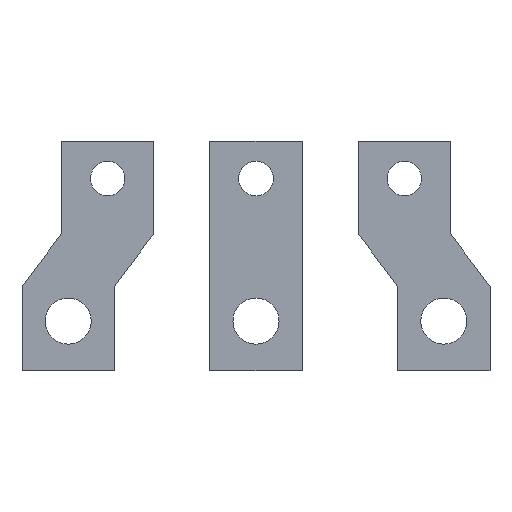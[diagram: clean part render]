
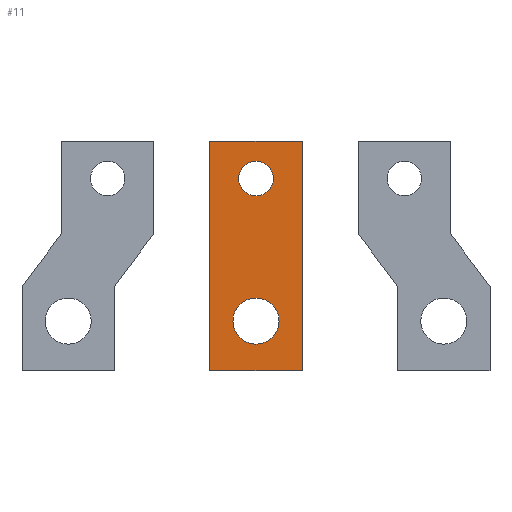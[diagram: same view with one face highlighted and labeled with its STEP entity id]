
A CAD part, front view. The second image highlights one B-rep face of the part: STEP entity #11.
In plain terms, the highlighted planar face has unit normal (0, -1, 0).
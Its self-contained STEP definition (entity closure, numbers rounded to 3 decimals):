
#11 = ADVANCED_FACE ( 'NONE', ( #451, #427, #216 ), #312, .T. ) ;
#13 = DIRECTION ( 'NONE',  ( 0., 0., 1. ) ) ;
#23 = AXIS2_PLACEMENT_3D ( 'NONE', #634, #701, #171 ) ;
#63 = VERTEX_POINT ( 'NONE', #481 ) ;
#69 = ORIENTED_EDGE ( 'NONE', *, *, #667, .T. ) ;
#81 = ORIENTED_EDGE ( 'NONE', *, *, #754, .F. ) ;
#85 = ORIENTED_EDGE ( 'NONE', *, *, #803, .F. ) ;
#107 = LINE ( 'NONE', #170, #597 ) ;
#129 = ORIENTED_EDGE ( 'NONE', *, *, #444, .T. ) ;
#143 = DIRECTION ( 'NONE',  ( 1., 0., 0. ) ) ;
#164 = CIRCLE ( 'NONE', #275, 5.25 ) ;
#170 = CARTESIAN_POINT ( 'NONE',  ( -32.903, 0., 40.692 ) ) ;
#171 = DIRECTION ( 'NONE',  ( 0., 0., 1. ) ) ;
#175 = DIRECTION ( 'NONE',  ( 0., 1., 0. ) ) ;
#178 = VERTEX_POINT ( 'NONE', #851 ) ;
#184 = EDGE_LOOP ( 'NONE', ( #81, #85, #588, #550 ) ) ;
#195 = DIRECTION ( 'NONE',  ( -1., 0., 0. ) ) ;
#200 = DIRECTION ( 'NONE',  ( 0., 1., 0. ) ) ;
#216 = FACE_BOUND ( 'NONE', #342, .T. ) ;
#226 = VERTEX_POINT ( 'NONE', #595 ) ;
#242 = CARTESIAN_POINT ( 'NONE',  ( -4.903, 0., -28.808 ) ) ;
#261 = CARTESIAN_POINT ( 'NONE',  ( -18.903, 0., 29.442 ) ) ;
#275 = AXIS2_PLACEMENT_3D ( 'NONE', #261, #200, #640 ) ;
#280 = AXIS2_PLACEMENT_3D ( 'NONE', #288, #425, #678 ) ;
#286 = CARTESIAN_POINT ( 'NONE',  ( -18.903, 0., -13.808 ) ) ;
#288 = CARTESIAN_POINT ( 'NONE',  ( 0., 0., 0. ) ) ;
#292 = CIRCLE ( 'NONE', #809, 5.25 ) ;
#294 = DIRECTION ( 'NONE',  ( 0., 0., 1. ) ) ;
#312 = PLANE ( 'NONE',  #280 ) ;
#342 = EDGE_LOOP ( 'NONE', ( #440, #465 ) ) ;
#344 = EDGE_CURVE ( 'NONE', #63, #226, #660, .T. ) ;
#382 = CARTESIAN_POINT ( 'NONE',  ( -18.903, 0., 34.692 ) ) ;
#386 = CARTESIAN_POINT ( 'NONE',  ( -32.903, 0., 40.692 ) ) ;
#405 = CARTESIAN_POINT ( 'NONE',  ( -18.903, 0., 24.192 ) ) ;
#417 = CARTESIAN_POINT ( 'NONE',  ( -4.903, 0., 40.692 ) ) ;
#425 = DIRECTION ( 'NONE',  ( 0., -1., 0. ) ) ;
#427 = FACE_OUTER_BOUND ( 'NONE', #184, .T. ) ;
#440 = ORIENTED_EDGE ( 'NONE', *, *, #442, .T. ) ;
#442 = EDGE_CURVE ( 'NONE', #226, #63, #673, .T. ) ;
#444 = EDGE_CURVE ( 'NONE', #717, #649, #292, .T. ) ;
#448 = VECTOR ( 'NONE', #143, 1000. ) ;
#451 = FACE_BOUND ( 'NONE', #730, .T. ) ;
#465 = ORIENTED_EDGE ( 'NONE', *, *, #344, .T. ) ;
#476 = DIRECTION ( 'NONE',  ( 0., 1., 0. ) ) ;
#481 = CARTESIAN_POINT ( 'NONE',  ( -18.903, 0., -6.808 ) ) ;
#497 = VECTOR ( 'NONE', #581, 1000. ) ;
#504 = CARTESIAN_POINT ( 'NONE',  ( -18.903, 0., 29.442 ) ) ;
#513 = LINE ( 'NONE', #772, #688 ) ;
#532 = LINE ( 'NONE', #417, #448 ) ;
#550 = ORIENTED_EDGE ( 'NONE', *, *, #601, .F. ) ;
#553 = EDGE_CURVE ( 'NONE', #735, #674, #513, .T. ) ;
#581 = DIRECTION ( 'NONE',  ( 0., 0., -1. ) ) ;
#588 = ORIENTED_EDGE ( 'NONE', *, *, #553, .F. ) ;
#595 = CARTESIAN_POINT ( 'NONE',  ( -18.903, 0., -20.808 ) ) ;
#597 = VECTOR ( 'NONE', #628, 1000. ) ;
#601 = EDGE_CURVE ( 'NONE', #178, #735, #837, .T. ) ;
#607 = AXIS2_PLACEMENT_3D ( 'NONE', #286, #476, #13 ) ;
#628 = DIRECTION ( 'NONE',  ( 0., 0., 1. ) ) ;
#634 = CARTESIAN_POINT ( 'NONE',  ( -18.903, 0., -13.808 ) ) ;
#640 = DIRECTION ( 'NONE',  ( 0., 0., 1. ) ) ;
#649 = VERTEX_POINT ( 'NONE', #382 ) ;
#660 = CIRCLE ( 'NONE', #607, 7. ) ;
#667 = EDGE_CURVE ( 'NONE', #649, #717, #164, .T. ) ;
#673 = CIRCLE ( 'NONE', #23, 7. ) ;
#674 = VERTEX_POINT ( 'NONE', #708 ) ;
#678 = DIRECTION ( 'NONE',  ( 0., 0., -1. ) ) ;
#680 = VERTEX_POINT ( 'NONE', #386 ) ;
#688 = VECTOR ( 'NONE', #195, 1000. ) ;
#701 = DIRECTION ( 'NONE',  ( 0., 1., 0. ) ) ;
#708 = CARTESIAN_POINT ( 'NONE',  ( -32.903, 0., -28.808 ) ) ;
#717 = VERTEX_POINT ( 'NONE', #405 ) ;
#730 = EDGE_LOOP ( 'NONE', ( #129, #69 ) ) ;
#735 = VERTEX_POINT ( 'NONE', #804 ) ;
#754 = EDGE_CURVE ( 'NONE', #680, #178, #532, .T. ) ;
#772 = CARTESIAN_POINT ( 'NONE',  ( -32.903, 0., -28.808 ) ) ;
#803 = EDGE_CURVE ( 'NONE', #674, #680, #107, .T. ) ;
#804 = CARTESIAN_POINT ( 'NONE',  ( -4.903, 0., -28.808 ) ) ;
#809 = AXIS2_PLACEMENT_3D ( 'NONE', #504, #175, #294 ) ;
#837 = LINE ( 'NONE', #242, #497 ) ;
#851 = CARTESIAN_POINT ( 'NONE',  ( -4.903, 0., 40.692 ) ) ;
